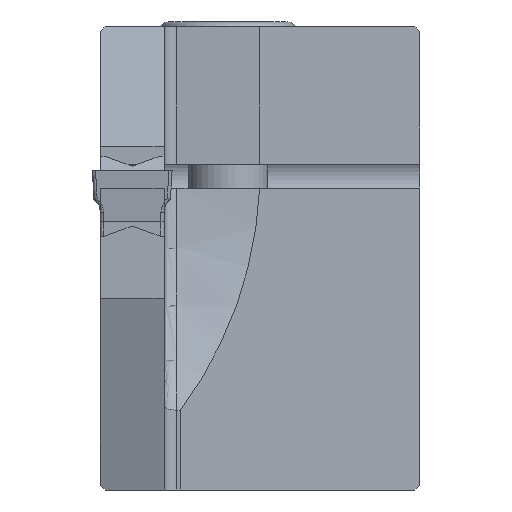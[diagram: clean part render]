
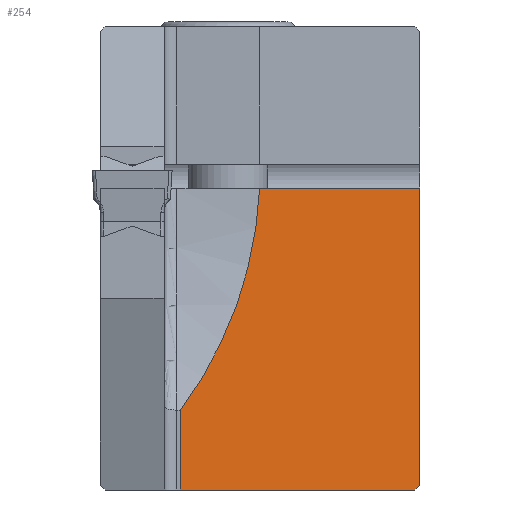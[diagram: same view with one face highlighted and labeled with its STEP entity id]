
A CAD part, left-side view. The second image highlights one B-rep face of the part: STEP entity #254.
In plain terms, the highlighted planar face has unit normal (-0.707, -0.707, 0).
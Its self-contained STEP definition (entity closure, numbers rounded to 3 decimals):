
#254=ADVANCED_FACE('',(#471),#380,.F.);
#380=PLANE('',#2665);
#471=FACE_OUTER_BOUND('',#616,.T.);
#616=EDGE_LOOP('',(#985,#986,#987,#988,#989,#990));
#985=ORIENTED_EDGE('',*,*,#1646,.T.);
#986=ORIENTED_EDGE('',*,*,#1704,.T.);
#987=ORIENTED_EDGE('',*,*,#1669,.T.);
#988=ORIENTED_EDGE('',*,*,#1727,.T.);
#989=ORIENTED_EDGE('',*,*,#1614,.F.);
#990=ORIENTED_EDGE('',*,*,#1708,.T.);
#1382=VERTEX_POINT('',#3472);
#1393=VERTEX_POINT('',#3493);
#1422=VERTEX_POINT('',#3562);
#1423=VERTEX_POINT('',#3563);
#1438=VERTEX_POINT('',#3644);
#1439=VERTEX_POINT('',#3645);
#1614=EDGE_CURVE('',#1393,#1382,#2041,.T.);
#1646=EDGE_CURVE('',#1422,#1423,#1941,.T.);
#1669=EDGE_CURVE('',#1438,#1439,#2083,.T.);
#1704=EDGE_CURVE('',#1423,#1438,#2109,.T.);
#1708=EDGE_CURVE('',#1393,#1422,#2113,.T.);
#1727=EDGE_CURVE('',#1439,#1382,#2124,.T.);
#1941=ELLIPSE('',#2588,35.355,25.);
#2041=LINE('',#3494,#2278);
#2083=LINE('',#3643,#2320);
#2109=LINE('',#3715,#2346);
#2113=LINE('',#3722,#2350);
#2124=LINE('',#3764,#2361);
#2278=VECTOR('',#2820,1.);
#2320=VECTOR('',#2912,1.);
#2346=VECTOR('',#2976,1.);
#2350=VECTOR('',#2986,1.);
#2361=VECTOR('',#3043,1.);
#2588=AXIS2_PLACEMENT_3D('',#3561,#2871,#2872);
#2665=AXIS2_PLACEMENT_3D('',#3802,#3100,#3101);
#2820=DIRECTION('',(0.,0.,-1.));
#2871=DIRECTION('',(0.707,0.707,0.));
#2872=DIRECTION('',(-0.707,0.707,0.));
#2912=DIRECTION('',(0.707,-0.707,0.));
#2976=DIRECTION('',(0.,0.,-1.));
#2986=DIRECTION('',(-0.707,0.707,0.));
#3043=DIRECTION('',(0.577,-0.577,0.577));
#3100=DIRECTION('',(0.707,0.707,0.));
#3101=DIRECTION('',(0.707,-0.707,0.));
#3472=CARTESIAN_POINT('',(32.5,-20.,-19.7));
#3493=CARTESIAN_POINT('',(32.5,-20.,-1.1));
#3494=CARTESIAN_POINT('',(32.5,-20.,-27.));
#3561=CARTESIAN_POINT('',(-2.5,15.,0.));
#3562=CARTESIAN_POINT('',(22.476,-9.976,-1.1));
#3563=CARTESIAN_POINT('',(17.5,-5.,-15.));
#3643=CARTESIAN_POINT('',(18.684,-6.184,-20.));
#3644=CARTESIAN_POINT('',(17.5,-5.,-20.));
#3645=CARTESIAN_POINT('',(32.2,-19.7,-20.));
#3715=CARTESIAN_POINT('',(17.5,-5.,-27.));
#3722=CARTESIAN_POINT('',(6.25,6.25,-1.1));
#3764=CARTESIAN_POINT('',(23.089,-10.589,-29.111));
#3802=CARTESIAN_POINT('',(17.5,-5.,-27.));
